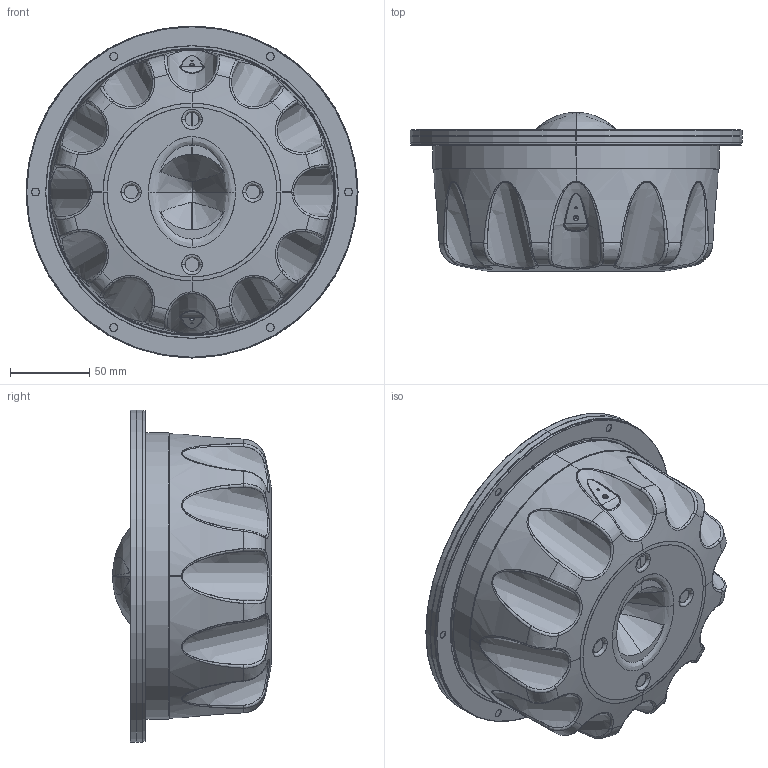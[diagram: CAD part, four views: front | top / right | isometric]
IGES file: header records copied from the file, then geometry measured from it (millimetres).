
Start section: SolidWorks IGES file using analytic representation for surfaces
Global section: file name: W:\TT\WEB 3D ENHEDER VER2\D8408_552000\D8408-552000.IGS; native system: SolidWorks 2020; preprocessor: SolidWorks 2020; author: jsn; date: 220504.094318; units: millimetre
Bounding box: 210 x 100.67 x 210 mm (x, y, z)
Surface area: 182711.1 mm2 (no closed solid volume)
Topology: 0 solids, 0 shells, 426 faces, 9344 edges, 9336 vertices
Faces by surface type: bspline 273, revolution 153
